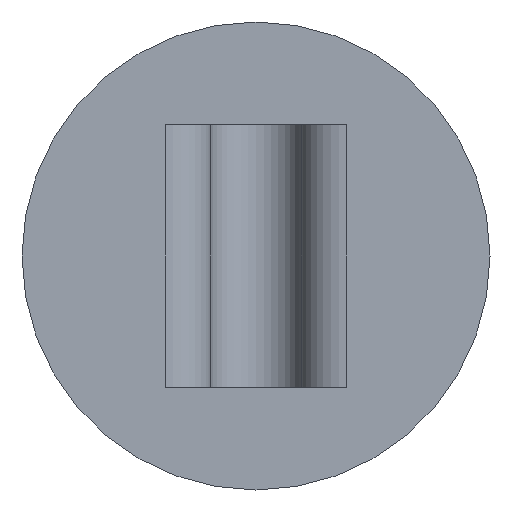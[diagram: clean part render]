
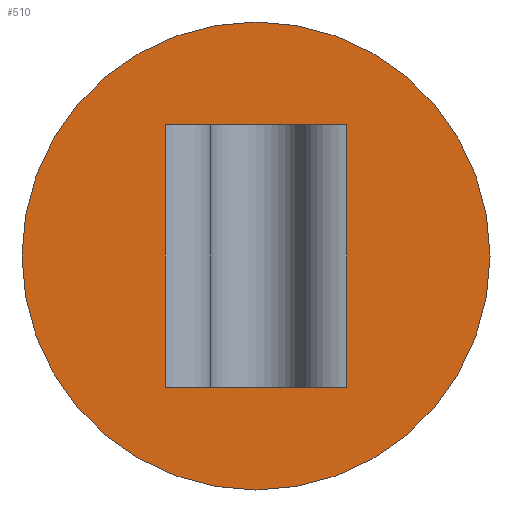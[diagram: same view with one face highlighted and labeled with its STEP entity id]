
A CAD part, front view. The second image highlights one B-rep face of the part: STEP entity #510.
In plain terms, the highlighted planar face has unit normal (0, -1, 0).
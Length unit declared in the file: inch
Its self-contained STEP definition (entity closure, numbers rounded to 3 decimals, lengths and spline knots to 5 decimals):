
#9 = VERTEX_POINT ( 'NONE', #29 ) ;
#20 = LINE ( 'NONE', #403, #228 ) ;
#22 = CARTESIAN_POINT ( 'NONE',  ( -0.625, -0.062, 0.7 ) ) ;
#26 = CARTESIAN_POINT ( 'NONE',  ( 0.24206, -0.062, 0. ) ) ;
#29 = CARTESIAN_POINT ( 'NONE',  ( 0.24206, -0.062, 0. ) ) ;
#36 = VECTOR ( 'NONE', #90, 39.37008 ) ;
#39 = CARTESIAN_POINT ( 'NONE',  ( 0.625, -0.062, 0.35 ) ) ;
#47 = ORIENTED_EDGE ( 'NONE', *, *, #261, .F. ) ;
#57 = FACE_BOUND ( 'NONE', #145, .T. ) ;
#67 = CARTESIAN_POINT ( 'NONE',  ( 0., -0.062, 0.35 ) ) ;
#89 = VERTEX_POINT ( 'NONE', #537 ) ;
#90 = DIRECTION ( 'NONE',  ( 1., 0., 0. ) ) ;
#95 = VERTEX_POINT ( 'NONE', #419 ) ;
#103 = CARTESIAN_POINT ( 'NONE',  ( -0.24206, -0.062, 0. ) ) ;
#105 = ORIENTED_EDGE ( 'NONE', *, *, #211, .T. ) ;
#110 = LINE ( 'NONE', #26, #159 ) ;
#125 = CARTESIAN_POINT ( 'NONE',  ( 0., -0.062, 0.35 ) ) ;
#135 = LINE ( 'NONE', #226, #36 ) ;
#138 = VECTOR ( 'NONE', #503, 39.37008 ) ;
#145 = EDGE_LOOP ( 'NONE', ( #47, #486, #105, #355 ) ) ;
#159 = VECTOR ( 'NONE', #242, 39.37008 ) ;
#178 = AXIS2_PLACEMENT_3D ( 'NONE', #22, #277, #449 ) ;
#182 = VERTEX_POINT ( 'NONE', #39 ) ;
#196 = DIRECTION ( 'NONE',  ( 0., 0., 1. ) ) ;
#201 = DIRECTION ( 'NONE',  ( 0., -1., 0. ) ) ;
#209 = LINE ( 'NONE', #377, #138 ) ;
#211 = EDGE_CURVE ( 'NONE', #95, #273, #209, .T. ) ;
#226 = CARTESIAN_POINT ( 'NONE',  ( 0.24206, -0.062, 0. ) ) ;
#228 = VECTOR ( 'NONE', #196, 39.37008 ) ;
#234 = EDGE_CURVE ( 'NONE', #182, #89, #515, .T. ) ;
#238 = FACE_OUTER_BOUND ( 'NONE', #442, .T. ) ;
#242 = DIRECTION ( 'NONE',  ( 0., 0., 1. ) ) ;
#261 = EDGE_CURVE ( 'NONE', #524, #9, #135, .T. ) ;
#270 = ORIENTED_EDGE ( 'NONE', *, *, #448, .T. ) ;
#273 = VERTEX_POINT ( 'NONE', #303 ) ;
#276 = AXIS2_PLACEMENT_3D ( 'NONE', #125, #337, #381 ) ;
#277 = DIRECTION ( 'NONE',  ( 0., 1., 0. ) ) ;
#281 = PLANE ( 'NONE',  #178 ) ;
#303 = CARTESIAN_POINT ( 'NONE',  ( 0.24206, -0.062, 0.7 ) ) ;
#318 = CIRCLE ( 'NONE', #439, 0.625 ) ;
#337 = DIRECTION ( 'NONE',  ( 0., -1., 0. ) ) ;
#355 = ORIENTED_EDGE ( 'NONE', *, *, #467, .F. ) ;
#377 = CARTESIAN_POINT ( 'NONE',  ( 0.24206, -0.062, 0.7 ) ) ;
#381 = DIRECTION ( 'NONE',  ( 1., 0., 0. ) ) ;
#403 = CARTESIAN_POINT ( 'NONE',  ( -0.24206, -0.062, 0. ) ) ;
#419 = CARTESIAN_POINT ( 'NONE',  ( -0.24206, -0.062, 0.7 ) ) ;
#425 = EDGE_CURVE ( 'NONE', #524, #95, #20, .T. ) ;
#439 = AXIS2_PLACEMENT_3D ( 'NONE', #67, #201, #494 ) ;
#442 = EDGE_LOOP ( 'NONE', ( #504, #270 ) ) ;
#448 = EDGE_CURVE ( 'NONE', #89, #182, #318, .T. ) ;
#449 = DIRECTION ( 'NONE',  ( 0., 0., 1. ) ) ;
#467 = EDGE_CURVE ( 'NONE', #9, #273, #110, .T. ) ;
#486 = ORIENTED_EDGE ( 'NONE', *, *, #425, .T. ) ;
#494 = DIRECTION ( 'NONE',  ( 1., 0., 0. ) ) ;
#503 = DIRECTION ( 'NONE',  ( 1., 0., 0. ) ) ;
#504 = ORIENTED_EDGE ( 'NONE', *, *, #234, .T. ) ;
#510 = ADVANCED_FACE ( 'NONE', ( #238, #57 ), #281, .F. ) ;
#515 = CIRCLE ( 'NONE', #276, 0.625 ) ;
#524 = VERTEX_POINT ( 'NONE', #103 ) ;
#537 = CARTESIAN_POINT ( 'NONE',  ( -0.625, -0.062, 0.35 ) ) ;
